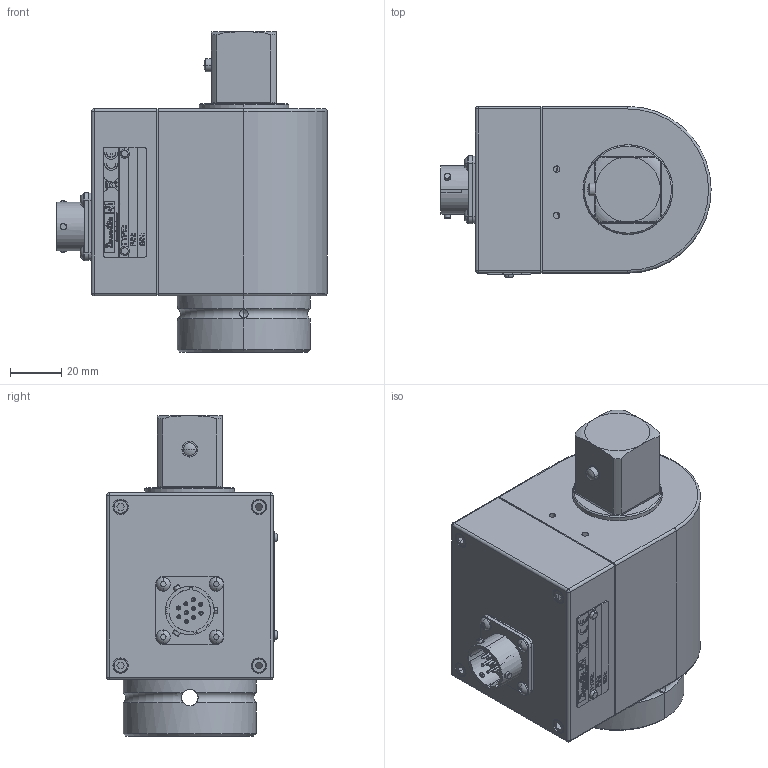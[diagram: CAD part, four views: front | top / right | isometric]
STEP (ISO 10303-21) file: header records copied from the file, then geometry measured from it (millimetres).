
FILE_DESCRIPTION((''),'2;1');
FILE_NAME('2260_SW0001','2014-03-21T',('itdmaca'),(''),'PRO/ENGINEER BY PARAMETRIC TECHNOLOGY CORPORATION, 2012420','PRO/ENGINEER BY PARAMETRIC TECHNOLOGY CORPORATION, 2012420','');
FILE_SCHEMA(('CONFIG_CONTROL_DESIGN','GEOMETRIC_VALIDATION_PROPERTIES_MIM'));
Length unit declared in the file: millimetre
Products named in the file (1): 2260_SW0001
Bounding box: 105.52 x 66.75 x 125 mm (x, y, z)
Surface area: 45715.3 mm2 (no closed solid volume)
Topology: 0 solids, 39 shells, 306 faces, 1360 edges, 1074 vertices
Faces by surface type: plane 107, cylinder 105, sphere 38, cone 28, torus 27, extrusion 1
Entity records: 19340 total; most frequent: CARTESIAN_POINT 6650, DIRECTION 2135, ORIENTED_EDGE 2058, EDGE_CURVE 1324, VERTEX_POINT 1073, AXIS2_PLACEMENT_3D 750, VECTOR 635, LINE 634
